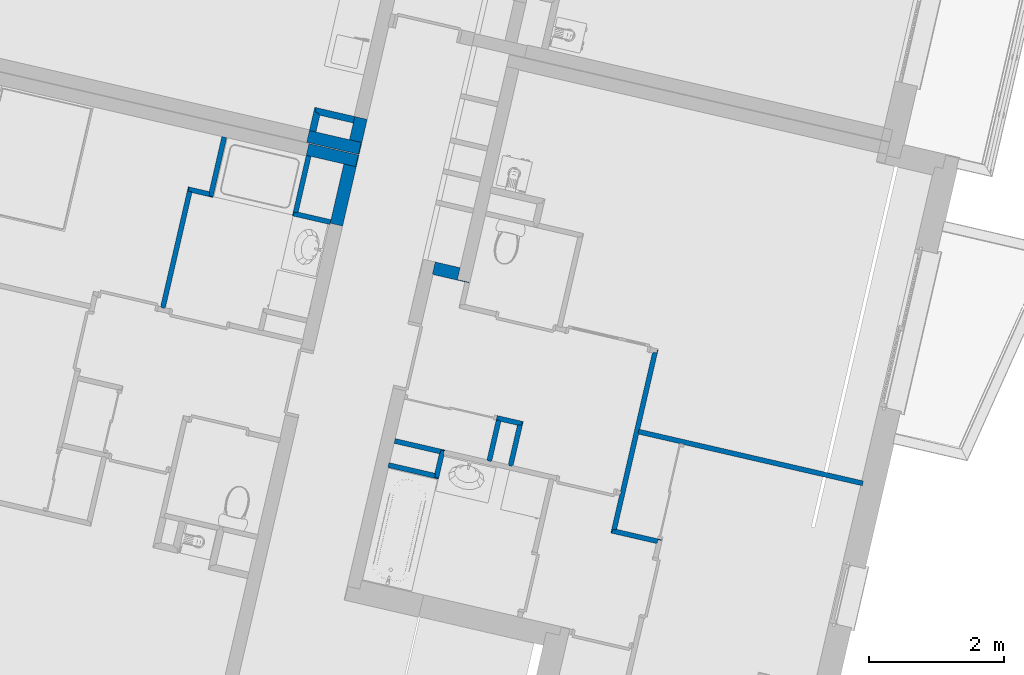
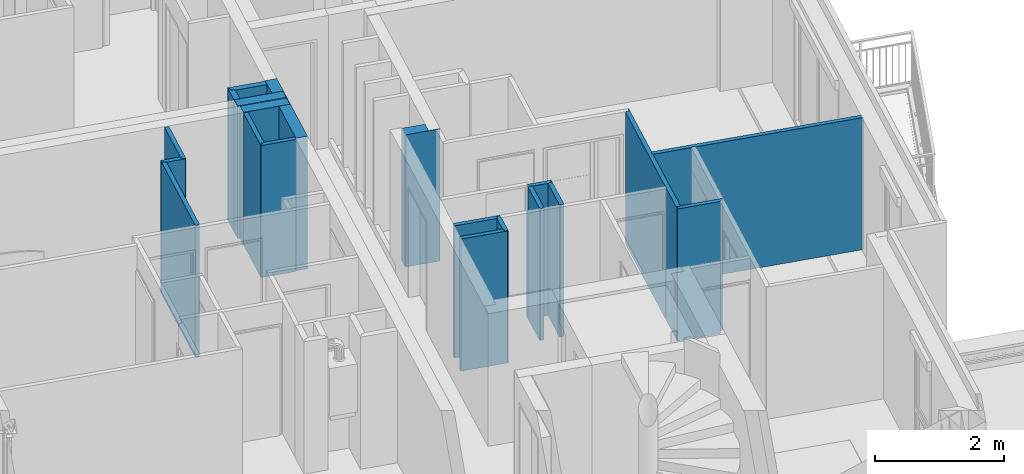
# One storey, part 49 of 90: 21 walls.
"""IFC2X3 building model written with IfcOpenShell, lengths in metres."""

from ifc_helpers import new_model, entity, si_unit, converted_unit, derived_unit, money_unit, direction, frame, origin_with_axes, place, context, subcontext, project, spatial, faceted_brep, material, material_list, type_object, element, save


model = new_model("IFC2X3")

# Units and contexts
model_context = context("Model", 3, precision=1e-05, world=origin_with_axes(), true_north=direction((0.0, 1.0)))
body_context = subcontext(model_context, "Body", "Model", "MODEL_VIEW")
ifc_project = project(units=[si_unit("LENGTHUNIT", "METRE"), si_unit("AREAUNIT", "SQUARE_METRE"), si_unit("VOLUMEUNIT", "CUBIC_METRE"), converted_unit("PLANEANGLEUNIT", "DEGREE", entity("IfcPlaneAngleMeasure", 0.0174532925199), si_unit("PLANEANGLEUNIT", "RADIAN"), dimensions=[0, 0, 0, 0, 0, 0, 0]), si_unit("SOLIDANGLEUNIT", "STERADIAN"), money_unit("EUR"), converted_unit("TIMEUNIT", "Year", entity("IfcTimeMeasure", 31556926.0), si_unit("TIMEUNIT", "SECOND"), dimensions=[0, 0, 1, 0, 0, 0, 0]), si_unit("MASSUNIT", "GRAM", prefix="KILO"), si_unit("THERMODYNAMICTEMPERATUREUNIT", "DEGREE_CELSIUS"), si_unit("LUMINOUSINTENSITYUNIT", "LUMEN"), si_unit("ENERGYUNIT", "JOULE", prefix="MEGA"), derived_unit("THERMALCONDUCTANCEUNIT", [(si_unit("POWERUNIT", "WATT"), 1), (si_unit("LENGTHUNIT", "METRE"), -1), (si_unit("THERMODYNAMICTEMPERATUREUNIT", "KELVIN"), -1)]), derived_unit("SPECIFICHEATCAPACITYUNIT", [(si_unit("ENERGYUNIT", "JOULE"), 1), (si_unit("MASSUNIT", "GRAM", prefix="KILO"), -1), (si_unit("THERMODYNAMICTEMPERATUREUNIT", "KELVIN"), -1)]), derived_unit("MASSDENSITYUNIT", [(si_unit("MASSUNIT", "GRAM", prefix="KILO"), 1), (si_unit("VOLUMEUNIT", "CUBIC_METRE"), -1)])], contexts=[model_context])

# Site, building, storey
site_placement = place(None, origin_with_axes())
site = spatial("IfcSite", under=ifc_project, at=site_placement, Name="Site", CompositionType="ELEMENT")
building_placement = place(site_placement, origin_with_axes())
building = spatial("IfcBuilding", under=site, at=building_placement, Name="Bâtiment", CompositionType="ELEMENT")
storey_placement = place(building_placement, frame((0.0, 0.0, 2.72), z_axis=(0.0, 0.0, 1.0), x_axis=(1.0, 0.0, 0.0)))
storey = spatial("IfcBuildingStorey", under=building, at=storey_placement, Name="R+1", CompositionType="ELEMENT", Elevation=2.72)

# Walls
ifc_material_1 = material(Name="Finition int - Plaque de plâtre")
ifc_material_2 = material(Name="Isolation - Laine de roche")
ifc_material_list_1 = material_list([ifc_material_1, ifc_material_2, ifc_material_1])
wall_type_1 = type_object("IfcWallType", Name="3 - Cloison 72mm Placostil 74", PredefinedType="USERDEFINED")
wall_1_placement = place(storey_placement, frame((-6.39424177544, -3.11506443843, 0.0), z_axis=(0.0, 0.0, 1.0), x_axis=(0.224876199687, 0.974387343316, 0.0)))
element("IfcWall", 1, at=wall_1_placement, inside=storey, type_object=wall_type_1, material=ifc_material_list_1, Name="Cloison Placostil 72/48", ObjectType="PARTITIONING", context=body_context, shape_type="Brep", body=[
    faceted_brep([(0.51300000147, -0.013, 2.5), (0.513000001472, 0.0, 2.5), (-0.061, 0.0, 2.5), (-0.0609999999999, -0.013, 2.5), (0.51300000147, -0.013, 0.0), (0.513000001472, 0.0, 0.0), (-0.061, 0.0, 0.0), (-0.0609999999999, -0.013, 0.0)], [[[0, 1, 2, 3]], [[1, 0, 4, 5]], [[1, 5, 6, 2]], [[7, 3, 2, 6]], [[4, 0, 3, 7]], [[5, 4, 7, 6]]]),
    faceted_brep([(2.6740000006, -0.013, 2.5), (2.6740000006, 0.0, 2.5), (0.561000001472, 0.0, 2.5), (0.56100000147, -0.013, 2.5), (2.6740000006, -0.013, 0.0), (2.6740000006, 0.0, 0.0), (0.561000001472, 0.0, 0.0), (0.56100000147, -0.013, 0.0)], [[[0, 1, 2, 3]], [[1, 0, 4, 5]], [[1, 5, 6, 2]], [[7, 3, 2, 6]], [[4, 0, 3, 7]], [[5, 4, 7, 6]]]),
    faceted_brep([(2.68700000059, -0.061, 2.5), (2.6870000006, -0.013, 2.5), (-0.0129999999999, -0.013, 2.5), (-0.0129999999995, -0.061, 2.5), (2.68700000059, -0.061, 0.0), (2.6870000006, -0.013, 0.0), (-0.0129999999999, -0.013, 0.0), (-0.0129999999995, -0.061, 0.0)], [[[0, 1, 2, 3]], [[1, 0, 4, 5]], [[1, 5, 6, 2]], [[7, 3, 2, 6]], [[4, 0, 3, 7]], [[5, 4, 7, 6]]]),
    faceted_brep([(2.73500000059, -0.074, 2.5), (2.73500000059, -0.061, 2.5), (1.51100000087, -0.061, 2.5), (1.51100000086, -0.074, 2.5), (2.73500000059, -0.074, 0.0), (2.73500000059, -0.061, 0.0), (1.51100000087, -0.061, 0.0), (1.51100000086, -0.074, 0.0)], [[[0, 1, 2, 3]], [[1, 0, 4, 5]], [[1, 5, 6, 2]], [[7, 3, 2, 6]], [[4, 0, 3, 7]], [[5, 4, 7, 6]]]),
    faceted_brep([(1.46300000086, -0.074, 2.5), (1.46300000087, -0.061, 2.5), (0.0, -0.061, 2.5), (0.0, -0.074, 2.5), (1.46300000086, -0.074, 0.0), (1.46300000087, -0.061, 0.0), (0.0, -0.061, 0.0), (0.0, -0.074, 0.0)], [[[0, 1, 2, 3]], [[1, 0, 4, 5]], [[1, 5, 6, 2]], [[7, 3, 2, 6]], [[4, 0, 3, 7]], [[5, 4, 7, 6]]]),
])
wall_2_placement = place(storey_placement, frame((-8.17772002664, -2.11437223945, 0.0), z_axis=(0.0, 0.0, 1.0), x_axis=(0.224876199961, 0.974387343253, 0.0)))
element("IfcWall", 2, at=wall_2_placement, inside=storey, type_object=wall_type_1, material=ifc_material_list_1, Name="Cloison Placostil 72/48", ObjectType="PARTITIONING", context=body_context, shape_type="Brep", body=[
    faceted_brep([(0.599999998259, 0.074, 0.0), (0.599999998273, 0.061, 0.0), (-1.14151355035e-10, 0.061, 0.0), (-1.15734533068e-10, 0.074, 0.0), (0.599999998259, 0.074, 2.5), (0.599999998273, 0.061, 2.5), (-1.14151355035e-10, 0.061, 2.5), (-1.15734533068e-10, 0.074, 2.5)], [[[0, 1, 2, 3]], [[1, 0, 4, 5]], [[1, 5, 6, 2]], [[7, 3, 2, 6]], [[4, 0, 3, 7]], [[5, 4, 7, 6]]]),
    faceted_brep([(0.612999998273, 0.061, 0.0), (0.612999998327, 0.013, 0.0), (-0.0130000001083, 0.013, 0.0), (-0.0130000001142, 0.061, 0.0), (0.612999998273, 0.061, 2.5), (0.612999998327, 0.013, 2.5), (-0.0130000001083, 0.013, 2.5), (-0.0130000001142, 0.061, 2.5)], [[[0, 1, 2, 3]], [[1, 0, 4, 5]], [[1, 5, 6, 2]], [[7, 3, 2, 6]], [[4, 0, 3, 7]], [[5, 4, 7, 6]]]),
    faceted_brep([(0.599999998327, 0.013, 0.0), (0.599999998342, 0.0, 0.0), (-1.06725739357e-10, 0.0, 0.0), (-1.08308029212e-10, 0.013, 0.0), (0.599999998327, 0.013, 2.5), (0.599999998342, 0.0, 2.5), (-1.06725739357e-10, 0.0, 2.5), (-1.08308029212e-10, 0.013, 2.5)], [[[0, 1, 2, 3]], [[1, 0, 4, 5]], [[1, 5, 6, 2]], [[7, 3, 2, 6]], [[4, 0, 3, 7]], [[5, 4, 7, 6]]]),
])
wall_3_placement = place(storey_placement, frame((-5.7180169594, -3.27112852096, 0.0), z_axis=(0.0, 0.0, 1.0), x_axis=(-0.974387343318, 0.224876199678, 0.0)))
element("IfcWall", 3, at=wall_3_placement, inside=storey, type_object=wall_type_1, material=ifc_material_list_1, Name="Cloison Placostil 72/48", ObjectType="PARTITIONING", context=body_context, shape_type="Brep", body=[
    faceted_brep([(0.693999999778, 0.074, 0.0), (0.693999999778, 0.061, 0.0), (0.0, 0.061, 0.0), (0.0, 0.074, 0.0), (0.693999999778, 0.074, 2.5), (0.693999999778, 0.061, 2.5), (0.0, 0.061, 2.5), (0.0, 0.074, 2.5)], [[[0, 1, 2, 3]], [[1, 0, 4, 5]], [[1, 5, 6, 2]], [[7, 3, 2, 6]], [[4, 0, 3, 7]], [[5, 4, 7, 6]]]),
    faceted_brep([(0.680999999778, 0.061, 0.0), (0.680999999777, 0.013, 0.0), (-0.012999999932, 0.013, 0.0), (-0.0129999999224, 0.061, 0.0), (0.680999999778, 0.061, 2.5), (0.680999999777, 0.013, 2.5), (-0.012999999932, 0.013, 2.5), (-0.0129999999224, 0.061, 2.5)], [[[0, 1, 2, 3]], [[1, 0, 4, 5]], [[1, 5, 6, 2]], [[7, 3, 2, 6]], [[4, 0, 3, 7]], [[5, 4, 7, 6]]]),
    faceted_brep([(0.632999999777, 0.013, 0.0), (0.632999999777, 0.0, 0.0), (-0.0609999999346, 0.0, 0.0), (-0.060999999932, 0.013, 0.0), (0.632999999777, 0.013, 2.5), (0.632999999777, 0.0, 2.5), (-0.0609999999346, 0.0, 2.5), (-0.060999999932, 0.013, 2.5)], [[[0, 1, 2, 3]], [[1, 0, 4, 5]], [[1, 5, 6, 2]], [[7, 3, 2, 6]], [[4, 0, 3, 7]], [[5, 4, 7, 6]]]),
])
wall_4_placement = place(storey_placement, frame((-6.0515304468, -1.63009812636, 0.0), z_axis=(0.0, 0.0, 1.0), x_axis=(0.974387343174, -0.224876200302, 0.0)))
element("IfcWall", 4, at=wall_4_placement, inside=storey, type_object=wall_type_1, material=ifc_material_list_1, Name="Cloison Placostil 72/48", ObjectType="PARTITIONING", context=body_context, shape_type="Brep", body=[
    faceted_brep([(0.073999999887, -0.013, 2.5), (3.48316950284, -0.013, 2.5), (3.48316950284, 0.0, 2.5), (0.0739999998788, 0.0, 2.5), (0.073999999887, -0.013, 0.0), (3.48316950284, -0.013, 0.0), (3.48316950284, 0.0, 0.0), (0.0739999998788, 0.0, 0.0)], [[[0, 1, 2, 3]], [[4, 5, 1, 0]], [[2, 1, 5, 6]], [[3, 2, 6, 7]], [[4, 0, 3, 7]], [[7, 6, 5, 4]]]),
    faceted_brep([(0.0609999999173, -0.061, 2.5), (3.48316950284, -0.061, 2.5), (3.48316950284, -0.013, 2.5), (0.060999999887, -0.013, 2.5), (0.0609999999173, -0.061, 0.0), (3.48316950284, -0.061, 0.0), (3.48316950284, -0.013, 0.0), (0.060999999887, -0.013, 0.0)], [[[0, 1, 2, 3]], [[4, 5, 1, 0]], [[2, 1, 5, 6]], [[3, 2, 6, 7]], [[4, 0, 3, 7]], [[7, 6, 5, 4]]]),
    faceted_brep([(0.706999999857, -0.074, 2.5), (0.706999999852, -0.061, 2.5), (0.0739999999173, -0.061, 2.5), (0.0739999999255, -0.074, 2.5), (0.706999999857, -0.074, 0.0), (0.706999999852, -0.061, 0.0), (0.0739999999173, -0.061, 0.0), (0.0739999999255, -0.074, 0.0)], [[[0, 1, 2, 3]], [[1, 0, 4, 5]], [[1, 5, 6, 2]], [[7, 3, 2, 6]], [[4, 0, 3, 7]], [[5, 4, 7, 6]]]),
    faceted_brep([(0.754999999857, -0.074, 2.5), (3.48316950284, -0.074, 2.5), (3.48316950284, -0.061, 2.5), (0.754999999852, -0.061, 2.5), (0.754999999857, -0.074, 0.0), (3.48316950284, -0.074, 0.0), (3.48316950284, -0.061, 0.0), (0.754999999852, -0.061, 0.0)], [[[0, 1, 2, 3]], [[4, 5, 1, 0]], [[2, 1, 5, 6]], [[3, 2, 6, 7]], [[4, 0, 3, 7]], [[7, 6, 5, 4]]]),
])
wall_5_placement = place(storey_placement, frame((-7.71045196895, -1.53049506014, 0.0), z_axis=(0.0, 0.0, 1.0), x_axis=(-0.974387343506, 0.224876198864, 0.0)))
element("IfcWall", 5, at=wall_5_placement, inside=storey, type_object=wall_type_1, material=ifc_material_list_1, Name="Cloison Placostil 72/48", ObjectType="PARTITIONING", context=body_context, shape_type="Brep", body=[
    faceted_brep([(0.385000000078, 0.074, 0.0), (0.397999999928, 0.074, 0.0), (0.397999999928, 0.061, 0.0), (0.385000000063, 0.061, 0.0), (0.385000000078, 0.074, 2.5), (0.397999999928, 0.074, 2.5), (0.397999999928, 0.061, 2.5), (0.385000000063, 0.061, 2.5)], [[[0, 1, 2, 3]], [[4, 5, 1, 0]], [[2, 1, 5, 6]], [[3, 2, 6, 7]], [[4, 0, 3, 7]], [[7, 6, 5, 4]]]),
    faceted_brep([(0.337000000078, 0.074, 0.0), (0.337000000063, 0.061, 0.0), (0.061000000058, 0.061, 0.0), (0.0610000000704, 0.074, 0.0), (0.337000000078, 0.074, 2.5), (0.337000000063, 0.061, 2.5), (0.061000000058, 0.061, 2.5), (0.0610000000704, 0.074, 2.5)], [[[0, 1, 2, 3]], [[1, 0, 4, 5]], [[1, 5, 6, 2]], [[7, 3, 2, 6]], [[4, 0, 3, 7]], [[5, 4, 7, 6]]]),
    faceted_brep([(0.013000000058, 0.061, 0.0), (0.397999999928, 0.061, 0.0), (0.397999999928, 0.013, 0.0), (0.0130000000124, 0.013, 0.0), (0.013000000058, 0.061, 2.5), (0.397999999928, 0.061, 2.5), (0.397999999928, 0.013, 2.5), (0.0130000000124, 0.013, 2.5)], [[[0, 1, 2, 3]], [[4, 5, 1, 0]], [[2, 1, 5, 6]], [[3, 2, 6, 7]], [[4, 0, 3, 7]], [[7, 6, 5, 4]]]),
    faceted_brep([(0.0, 0.013, 0.0), (0.397999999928, 0.013, 0.0), (0.397999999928, 0.0, 0.0), (0.0, 0.0, 0.0), (0.0, 0.013, 2.5), (0.397999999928, 0.013, 2.5), (0.397999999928, 0.0, 2.5), (0.0, 0.0, 2.5)], [[[0, 1, 2, 3]], [[4, 5, 1, 0]], [[2, 1, 5, 6]], [[3, 2, 6, 7]], [[4, 0, 3, 7]], [[7, 6, 5, 4]]]),
])
wall_6_placement = place(storey_placement, frame((-7.86201852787, -2.18723213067, 0.0), z_axis=(0.0, 0.0, 1.0), x_axis=(0.224876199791, 0.974387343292, 0.0)))
element("IfcWall", 6, at=wall_6_placement, inside=storey, type_object=wall_type_1, material=ifc_material_list_1, Name="Cloison Placostil 72/48", ObjectType="PARTITIONING", context=body_context, shape_type="Brep", body=[
    faceted_brep([(0.600000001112, 0.074, 0.0), (0.600000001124, 0.061, 0.0), (2.41132092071e-09, 0.061, 0.0), (2.41201103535e-09, 0.074, 0.0), (0.600000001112, 0.074, 2.5), (0.600000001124, 0.061, 2.5), (2.41132092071e-09, 0.061, 2.5), (2.41201147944e-09, 0.074, 2.5)], [[[0, 1, 2, 3]], [[1, 0, 4, 5]], [[1, 5, 6, 2]], [[7, 3, 2, 6]], [[4, 0, 3, 7]], [[5, 4, 7, 6]]]),
    faceted_brep([(0.613000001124, 0.061, 0.0), (0.61300000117, 0.013, 0.0), (-0.0129999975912, 0.013, 0.0), (-0.0129999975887, 0.061, 0.0), (0.613000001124, 0.061, 2.5), (0.61300000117, 0.013, 2.5), (-0.0129999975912, 0.013, 2.5), (-0.0129999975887, 0.061, 2.5)], [[[0, 1, 2, 3]], [[1, 0, 4, 5]], [[1, 5, 6, 2]], [[7, 3, 2, 6]], [[4, 0, 3, 7]], [[5, 4, 7, 6]]]),
    faceted_brep([(0.66100000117, 0.013, 0.0), (0.661000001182, 0.0, 0.0), (2.40808173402e-09, 0.0, 0.0), (2.40877229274e-09, 0.013, 0.0), (0.66100000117, 0.013, 2.5), (0.661000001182, 0.0, 2.5), (2.40808173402e-09, 0.0, 2.5), (2.40877229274e-09, 0.013, 2.5)], [[[0, 1, 2, 3]], [[1, 0, 4, 5]], [[1, 5, 6, 2]], [[7, 3, 2, 6]], [[4, 0, 3, 7]], [[5, 4, 7, 6]]]),
])
wall_7_placement = place(storey_placement, frame((-12.3216051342, 1.79729698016, 0.0), z_axis=(0.0, 0.0, 1.0), x_axis=(-0.974387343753, 0.224876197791, 0.0)))
element("IfcWall", 7, at=wall_7_placement, inside=storey, type_object=wall_type_1, material=ifc_material_list_1, Name="Cloison Placostil 72/48", ObjectType="PARTITIONING", context=body_context, shape_type="Brep", body=[
    faceted_brep([(0.332020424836, -0.013, 2.5), (0.332020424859, 0.0, 2.5), (0.013, 0.0, 2.5), (0.012999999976, -0.013, 2.5), (0.332020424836, -0.013, 0.0), (0.332020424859, 0.0, 0.0), (0.013, 0.0, 0.0), (0.012999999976, -0.013, 0.0)], [[[0, 1, 2, 3]], [[1, 0, 4, 5]], [[1, 5, 6, 2]], [[7, 3, 2, 6]], [[4, 0, 3, 7]], [[5, 4, 7, 6]]]),
    faceted_brep([(0.380020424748, -0.061, 2.5), (0.380020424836, -0.013, 2.5), (0.060999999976, -0.013, 2.5), (0.0609999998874, -0.061, 2.5), (0.380020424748, -0.061, 0.0), (0.380020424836, -0.013, 0.0), (0.060999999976, -0.013, 0.0), (0.0609999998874, -0.061, 0.0)], [[[0, 1, 2, 3]], [[1, 0, 4, 5]], [[1, 5, 6, 2]], [[7, 3, 2, 6]], [[4, 0, 3, 7]], [[5, 4, 7, 6]]]),
    faceted_brep([(0.393020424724, -0.074, 2.5), (0.393020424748, -0.061, 2.5), (0.0739999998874, -0.061, 2.5), (0.0739999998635, -0.074, 2.5), (0.393020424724, -0.074, 0.0), (0.393020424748, -0.061, 0.0), (0.0739999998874, -0.061, 0.0), (0.0739999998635, -0.074, 0.0)], [[[0, 1, 2, 3]], [[1, 0, 4, 5]], [[1, 5, 6, 2]], [[7, 3, 2, 6]], [[4, 0, 3, 7]], [[5, 4, 7, 6]]]),
])
wall_8_placement = place(storey_placement, frame((-13.0436333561, 0.0874017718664, 0.0), z_axis=(0.0, 0.0, 1.0), x_axis=(0.224876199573, 0.974387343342, 0.0)))
element("IfcWall", 8, at=wall_8_placement, inside=storey, type_object=wall_type_1, material=ifc_material_list_1, Name="Cloison Placostil 72/48", ObjectType="PARTITIONING", context=body_context, shape_type="Brep", body=[
    faceted_brep([(1.88946721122, 0.074, 0.0), (1.88946721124, 0.061, 0.0), (0.0740000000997, 0.061, 0.0), (0.0740000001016, 0.074, 0.0), (1.88946721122, 0.074, 2.5), (1.88946721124, 0.061, 2.5), (0.0740000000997, 0.061, 2.5), (0.0740000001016, 0.074, 2.5)], [[[0, 1, 2, 3]], [[1, 0, 4, 5]], [[1, 5, 6, 2]], [[7, 3, 2, 6]], [[4, 0, 3, 7]], [[5, 4, 7, 6]]]),
    faceted_brep([(1.84146721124, 0.061, 0.0), (1.84146721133, 0.013, 0.0), (0.0610000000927, 0.013, 0.0), (0.0610000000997, 0.061, 0.0), (1.84146721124, 0.061, 2.5), (1.84146721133, 0.013, 2.5), (0.0610000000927, 0.013, 2.5), (0.0610000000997, 0.061, 2.5)], [[[0, 1, 2, 3]], [[1, 0, 4, 5]], [[1, 5, 6, 2]], [[7, 3, 2, 6]], [[4, 0, 3, 7]], [[5, 4, 7, 6]]]),
    faceted_brep([(1.82846721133, 0.013, 0.0), (1.82846721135, 0.0, 0.0), (0.0740000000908, 0.0, 0.0), (0.0740000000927, 0.013, 0.0), (1.82846721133, 0.013, 2.5), (1.82846721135, 0.0, 2.5), (0.0740000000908, 0.0, 2.5), (0.0740000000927, 0.013, 2.5)], [[[0, 1, 2, 3]], [[1, 0, 4, 5]], [[1, 5, 6, 2]], [[7, 3, 2, 6]], [[4, 0, 3, 7]], [[5, 4, 7, 6]]]),
])
wall_9_placement = place(storey_placement, frame((-12.3216051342, 1.79729698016, 0.0), z_axis=(0.0, 0.0, 1.0), x_axis=(0.224876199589, 0.974387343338, 0.0)))
element("IfcWall", 9, at=wall_9_placement, inside=storey, type_object=wall_type_1, material=ifc_material_list_1, Name="Cloison Placostil 72/48", ObjectType="PARTITIONING", context=body_context, shape_type="Brep", body=[
    faceted_brep([(0.0609999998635, 0.074, 0.0), (0.912999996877, 0.074, 0.0), (0.912999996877, 0.061, 0.0), (0.0609999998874, 0.061, 0.0), (0.0609999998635, 0.074, 2.5), (0.912999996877, 0.074, 2.5), (0.912999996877, 0.061, 2.5), (0.0609999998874, 0.061, 2.5)], [[[0, 1, 2, 3]], [[4, 5, 1, 0]], [[2, 1, 5, 6]], [[3, 2, 6, 7]], [[4, 0, 3, 7]], [[7, 6, 5, 4]]]),
    faceted_brep([(0.0129999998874, 0.061, 0.0), (0.912999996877, 0.061, 0.0), (0.912999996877, 0.013, 0.0), (0.012999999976, 0.013, 0.0), (0.0129999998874, 0.061, 2.5), (0.912999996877, 0.061, 2.5), (0.912999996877, 0.013, 2.5), (0.012999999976, 0.013, 2.5)], [[[0, 1, 2, 3]], [[4, 5, 1, 0]], [[2, 1, 5, 6]], [[3, 2, 6, 7]], [[4, 0, 3, 7]], [[7, 6, 5, 4]]]),
    faceted_brep([(0.0, 0.013, 0.0), (0.912999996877, 0.013, 0.0), (0.912999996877, 0.0, 0.0), (0.0, 0.0, 0.0), (0.0, 0.013, 2.5), (0.912999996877, 0.013, 2.5), (0.912999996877, 0.0, 2.5), (0.0, 0.0, 2.5)], [[[0, 1, 2, 3]], [[4, 5, 1, 0]], [[2, 1, 5, 6]], [[3, 2, 6, 7]], [[4, 0, 3, 7]], [[7, 6, 5, 4]]]),
])
wall_type_2 = type_object("IfcWallType", Name="3 - Cloison Gaine Technique 72mm 74", PredefinedType="USERDEFINED")
wall_10_placement = place(storey_placement, frame((-8.97025376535, -2.38667692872, 0.0), z_axis=(0.0, 0.0, 1.0), x_axis=(0.224876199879, 0.974387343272, 0.0)))
element("IfcWall", 10, at=wall_10_placement, inside=storey, type_object=wall_type_2, material=ifc_material_list_1, Name="Cloison Placostil 72/48", ObjectType="PARTITIONING", context=body_context, shape_type="Brep", body=[
    faceted_brep([(0.382552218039, 0.074, 0.0), (0.38255221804, 0.061, 0.0), (0.0610000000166, 0.061, 0.0), (0.0610000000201, 0.074, 0.0), (0.382552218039, 0.074, 2.5), (0.38255221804, 0.061, 2.5), (0.0610000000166, 0.061, 2.5), (0.0610000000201, 0.074, 2.5)], [[[0, 1, 2, 3]], [[1, 0, 4, 5]], [[1, 5, 6, 2]], [[7, 3, 2, 6]], [[4, 0, 3, 7]], [[5, 4, 7, 6]]]),
    faceted_brep([(0.0130000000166, 0.061, 0.0), (0.43055221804, 0.061, 0.0), (0.430552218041, 0.013, 0.0), (0.0130000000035, 0.013, 0.0), (0.0130000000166, 0.061, 2.5), (0.43055221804, 0.061, 2.5), (0.430552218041, 0.013, 2.5), (0.0130000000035, 0.013, 2.5)], [[[0, 1, 2, 3]], [[4, 5, 1, 0]], [[6, 2, 1, 5]], [[3, 2, 6, 7]], [[7, 4, 0, 3]], [[7, 6, 5, 4]]]),
    faceted_brep([(0.0, 0.0, 0.0), (0.382552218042, 0.0, 0.0), (0.382552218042, 0.0, 2.5), (0.0, 0.0, 2.5), (0.0, 0.013, 0.0), (0.382552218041, 0.013, 0.0), (0.382552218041, 0.013, 2.5), (0.0, 0.013, 2.5)], [[[0, 1, 2, 3]], [[4, 5, 1, 0]], [[5, 6, 2, 1]], [[3, 2, 6, 7]], [[3, 7, 4, 0]], [[7, 6, 5, 4]]]),
    faceted_brep([(0.443552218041, 0.013, 2.5), (0.430552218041, 0.013, 2.5), (0.430552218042, 0.0, 2.5), (0.443552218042, 0.0, 2.5), (0.443552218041, 0.013, 0.0), (0.430552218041, 0.013, 0.0), (0.430552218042, 0.0, 0.0), (0.443552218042, 0.0, 0.0)], [[[0, 1, 2, 3]], [[4, 5, 1, 0]], [[5, 6, 2, 1]], [[3, 2, 6, 7]], [[3, 7, 4, 0]], [[7, 6, 5, 4]]]),
])
wall_11_placement = place(storey_placement, frame((-8.87050942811, -1.95448526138, 0.0), z_axis=(0.0, 0.0, 1.0), x_axis=(-0.97438734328, 0.224876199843, 0.0)))
element("IfcWall", 11, at=wall_11_placement, inside=storey, type_object=wall_type_2, material=ifc_material_list_1, Name="Cloison Placostil 72/48", ObjectType="PARTITIONING", context=body_context, shape_type="Brep", body=[
    faceted_brep([(0.0740000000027, 0.074, 0.0), (0.763000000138, 0.074, 0.0), (0.763000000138, 0.061, 0.0), (0.0740000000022, 0.061, 0.0), (0.0740000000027, 0.074, 2.5), (0.763000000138, 0.074, 2.5), (0.763000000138, 0.061, 2.5), (0.0740000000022, 0.061, 2.5)], [[[0, 1, 2, 3]], [[4, 5, 1, 0]], [[2, 1, 5, 6]], [[3, 2, 6, 7]], [[4, 0, 3, 7]], [[7, 6, 5, 4]]]),
    faceted_brep([(0.0610000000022, 0.061, 0.0), (0.763000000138, 0.061, 0.0), (0.763000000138, 0.013, 0.0), (0.0610000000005, 0.013, 0.0), (0.0610000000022, 0.061, 2.5), (0.763000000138, 0.061, 2.5), (0.763000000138, 0.013, 2.5), (0.0610000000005, 0.013, 2.5)], [[[0, 1, 2, 3]], [[4, 5, 1, 0]], [[2, 1, 5, 6]], [[3, 2, 6, 7]], [[4, 0, 3, 7]], [[7, 6, 5, 4]]]),
    faceted_brep([(0.013, 0.0, 0.0), (0.0130000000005, 0.013, 0.0), (0.763000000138, 0.013, 0.0), (0.763000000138, 0.0, 0.0), (0.013, 0.0, 2.5), (0.0130000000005, 0.013, 2.5), (0.763000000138, 0.013, 2.5), (0.763000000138, 0.0, 2.5)], [[[0, 1, 2, 3]], [[4, 5, 1, 0]], [[1, 5, 6, 2]], [[7, 3, 2, 6]], [[4, 0, 3, 7]], [[5, 4, 7, 6]]]),
])
wall_12_placement = place(storey_placement, frame((-9.90858877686, -2.17012114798, 0.0), z_axis=(0.0, 0.0, 1.0), x_axis=(0.974387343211, -0.224876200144, 0.0)))
element("IfcWall", 12, at=wall_12_placement, inside=storey, type_object=wall_type_2, material=ifc_material_list_1, Name="Cloison Placostil 72/48", ObjectType="PARTITIONING", context=body_context, shape_type="Brep", body=[
    faceted_brep([(0.88899999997, 0.074, 0.0), (0.888999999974, 0.061, 0.0), (0.189999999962, 0.061, 0.0), (0.189999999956, 0.074, 0.0), (0.88899999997, 0.074, 2.5), (0.888999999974, 0.061, 2.5), (0.189999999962, 0.061, 2.5), (0.189999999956, 0.074, 2.5)], [[[0, 1, 2, 3]], [[1, 0, 4, 5]], [[1, 5, 6, 2]], [[7, 3, 2, 6]], [[4, 0, 3, 7]], [[5, 4, 7, 6]]]),
    faceted_brep([(0.901999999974, 0.061, 0.0), (0.901999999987, 0.013, 0.0), (0.189999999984, 0.013, 0.0), (0.189999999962, 0.061, 0.0), (0.901999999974, 0.061, 2.5), (0.901999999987, 0.013, 2.5), (0.189999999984, 0.013, 2.5), (0.189999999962, 0.061, 2.5)], [[[0, 1, 2, 3]], [[1, 0, 4, 5]], [[1, 5, 6, 2]], [[7, 3, 2, 6]], [[4, 0, 3, 7]], [[5, 4, 7, 6]]]),
    faceted_brep([(0.949999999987, 0.013, 0.0), (0.94999999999, 0.0, 0.0), (0.18999999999, 0.0, 0.0), (0.189999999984, 0.013, 0.0), (0.949999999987, 0.013, 2.5), (0.94999999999, 0.0, 2.5), (0.18999999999, 0.0, 2.5), (0.189999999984, 0.013, 2.5)], [[[0, 1, 2, 3]], [[1, 0, 4, 5]], [[1, 5, 6, 2]], [[7, 3, 2, 6]], [[4, 0, 3, 7]], [[5, 4, 7, 6]]]),
])
wall_13_placement = place(storey_placement, frame((-10.5676316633, 1.4684473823, 0.0), z_axis=(0.0, 0.0, 1.0), x_axis=(-0.974387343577, 0.224876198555, 0.0)))
element("IfcWall", 13, at=wall_13_placement, inside=storey, type_object=wall_type_2, material=ifc_material_list_1, Name="Cloison Placostil 72/48", ObjectType="PARTITIONING", context=body_context, shape_type="Brep", body=[
    faceted_brep([(0.572999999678, 0.074, 0.0), (0.572999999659, 0.061, 0.0), (0.0, 0.061, 0.0), (0.0, 0.074, 0.0), (0.572999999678, 0.074, 2.5), (0.572999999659, 0.061, 2.5), (0.0, 0.061, 2.5), (0.0, 0.074, 2.5)], [[[0, 1, 2, 3]], [[1, 0, 4, 5]], [[1, 5, 6, 2]], [[7, 3, 2, 6]], [[4, 0, 3, 7]], [[5, 4, 7, 6]]]),
    faceted_brep([(0.559999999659, 0.061, 0.0), (0.55999999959, 0.013, 0.0), (0.0, 0.013, 0.0), (0.0, 0.061, 0.0), (0.559999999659, 0.061, 2.5), (0.55999999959, 0.013, 2.5), (0.0, 0.013, 2.5), (0.0, 0.061, 2.5)], [[[0, 1, 2, 3]], [[1, 0, 4, 5]], [[1, 5, 6, 2]], [[7, 3, 2, 6]], [[4, 0, 3, 7]], [[5, 4, 7, 6]]]),
    faceted_brep([(0.51199999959, 0.013, 0.0), (0.511999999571, 0.0, 0.0), (0.0, 0.0, 0.0), (0.0, 0.013, 0.0), (0.51199999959, 0.013, 2.5), (0.511999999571, 0.0, 2.5), (0.0, 0.0, 2.5), (0.0, 0.013, 2.5)], [[[0, 1, 2, 3]], [[1, 0, 4, 5]], [[1, 5, 6, 2]], [[7, 3, 2, 6]], [[4, 0, 3, 7]], [[5, 4, 7, 6]]]),
])
wall_14_placement = place(storey_placement, frame((-11.1259556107, 1.59730144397, 0.0), z_axis=(0.0, 0.0, 1.0), x_axis=(0.224876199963, 0.974387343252, 0.0)))
element("IfcWall", 14, at=wall_14_placement, inside=storey, type_object=wall_type_2, material=ifc_material_list_1, Name="Cloison Placostil 72/48", ObjectType="PARTITIONING", context=body_context, shape_type="Brep", body=[
    faceted_brep([(-0.0609999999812, -0.013, 2.5), (0.848999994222, -0.013, 2.5), (0.848999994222, 0.0, 2.5), (-0.061, 0.0, 2.5), (-0.0609999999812, -0.013, 0.0), (0.848999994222, -0.013, 0.0), (0.848999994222, 0.0, 0.0), (-0.061, 0.0, 0.0)], [[[0, 1, 2, 3]], [[4, 5, 1, 0]], [[2, 1, 5, 6]], [[3, 2, 6, 7]], [[4, 0, 3, 7]], [[7, 6, 5, 4]]]),
    faceted_brep([(-0.0129999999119, -0.061, 2.5), (0.848999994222, -0.061, 2.5), (0.848999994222, -0.013, 2.5), (-0.0129999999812, -0.013, 2.5), (-0.0129999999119, -0.061, 0.0), (0.848999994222, -0.061, 0.0), (0.848999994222, -0.013, 0.0), (-0.0129999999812, -0.013, 0.0)], [[[0, 1, 2, 3]], [[4, 5, 1, 0]], [[2, 1, 5, 6]], [[3, 2, 6, 7]], [[4, 0, 3, 7]], [[7, 6, 5, 4]]]),
    faceted_brep([(1.06900266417e-10, -0.074, 2.5), (0.848999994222, -0.074, 2.5), (0.848999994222, -0.061, 2.5), (0.0, -0.061, 2.5), (1.06900266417e-10, -0.074, 0.0), (0.848999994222, -0.074, 0.0), (0.848999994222, -0.061, 0.0), (0.0, -0.061, 0.0)], [[[0, 1, 2, 3]], [[4, 5, 1, 0]], [[2, 1, 5, 6]], [[3, 2, 6, 7]], [[4, 0, 3, 7]], [[7, 6, 5, 4]]]),
])
ifc_material_3 = material(Name="Finition int - Enduit plâtre")
ifc_material_4 = material(Name="Béton")
ifc_material_list_2 = material_list([ifc_material_3, ifc_material_4])
wall_type_3 = type_object("IfcWallType", Name="2 - Murs Béton 18 + Enduit 1 Face 190", PredefinedType="USERDEFINED")
wall_15_placement = place(storey_placement, frame((-8.64852667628, 0.754993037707, 0.0), z_axis=(0.0, 0.0, 1.0), x_axis=(-0.974387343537, 0.224876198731, 0.0)))
element("IfcWall", 15, at=wall_15_placement, inside=storey, type_object=wall_type_3, material=ifc_material_list_2, Name="M_Ext-008", ObjectType="SOLIDWALL", context=body_context, shape_type="Brep", body=[
    faceted_brep([(-0.179999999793, 0.18, 0.0), (0.37000000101, 0.18, 0.0), (0.37000000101, 0.18, 2.5), (-0.179999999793, 0.18, 2.5), (-0.179999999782, 0.19, 0.0), (0.37000000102, 0.19, 0.0), (0.37000000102, 0.19, 2.5), (-0.179999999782, 0.19, 2.5)], [[[0, 1, 2, 3]], [[4, 5, 1, 0]], [[2, 1, 5, 6]], [[3, 2, 6, 7]], [[4, 0, 3, 7]], [[6, 5, 4, 7]]]),
    faceted_brep([(0.0, 0.0, 0.0), (0.380000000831, 0.0, 0.0), (0.380000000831, 0.0, 2.5), (0.0, 0.0, 2.5), (2.06908268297e-10, 0.18, 0.0), (0.38000000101, 0.18, 0.0), (0.38000000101, 0.18, 2.5), (2.06908268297e-10, 0.18, 2.5)], [[[0, 1, 2, 3]], [[4, 5, 1, 0]], [[2, 1, 5, 6]], [[3, 2, 6, 7]], [[4, 0, 3, 7]], [[6, 5, 4, 7]]]),
])
wall_16_placement = place(storey_placement, frame((-10.2139014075, 3.00115867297, 0.0), z_axis=(0.0, 0.0, 1.0), x_axis=(-0.22487619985, -0.974387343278, 0.0)))
element("IfcWall", 16, at=wall_16_placement, inside=storey, type_object=wall_type_3, material=ifc_material_list_2, Name="M_Ext-009", ObjectType="SOLIDWALL", context=body_context, shape_type="Brep", body=[
    faceted_brep([(0.0, 0.18, 2.51), (0.0, 0.19, 2.51), (0.0, 0.19, 0.0), (0.0, 0.18, 0.0), (0.534000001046, 0.19, 2.51), (0.534000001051, 0.18, 2.51), (0.534000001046, 0.19, 0.0), (0.534000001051, 0.18, 0.0)], [[[0, 1, 2, 3]], [[4, 1, 0, 5]], [[1, 4, 6, 2]], [[3, 2, 6, 7]], [[5, 0, 3, 7]], [[4, 5, 7, 6]]]),
    faceted_brep([(0.0, 0.0, 2.51), (0.0, 0.18, 2.51), (0.0, 0.18, 0.0), (0.0, 0.0, 0.0), (0.354000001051, 0.18, 2.51), (0.354000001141, 0.0, 2.51), (0.354000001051, 0.18, 0.0), (0.354000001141, 0.0, 0.0)], [[[0, 1, 2, 3]], [[4, 1, 0, 5]], [[1, 4, 6, 2]], [[7, 3, 2, 6]], [[5, 0, 3, 7]], [[4, 5, 7, 6]]]),
])
wall_17_placement = place(storey_placement, frame((-10.1608443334, 2.43061423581, 0.0), z_axis=(0.0, 0.0, 1.0), x_axis=(-0.22487619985, -0.974387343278, 0.0)))
element("IfcWall", 17, at=wall_17_placement, inside=storey, type_object=wall_type_3, material=ifc_material_list_2, Name="M_Ext-009", ObjectType="SOLIDWALL", context=body_context, shape_type="Brep", body=[
    faceted_brep([(0.0, 0.0, 2.51), (0.0, 0.01, 2.51), (0.0, 0.01, 0.0), (0.0, 0.0, 0.0), (1.08299999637, 0.01, 2.51), (1.08299999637, 0.0, 2.51), (1.08299999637, 0.01, 0.0), (1.08299999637, 0.0, 0.0)], [[[0, 1, 2, 3]], [[4, 1, 0, 5]], [[1, 4, 6, 2]], [[2, 6, 7, 3]], [[5, 0, 3, 7]], [[4, 5, 7, 6]]]),
    faceted_brep([(0.179999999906, -0.18, 2.51), (0.18, 0.0, 2.51), (0.18, 0.0, 0.0), (0.179999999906, -0.18, 0.0), (1.08299999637, 0.0, 2.51), (1.08299999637, -0.18, 2.51), (1.08299999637, 0.0, 0.0), (1.08299999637, -0.18, 0.0)], [[[0, 1, 2, 3]], [[4, 1, 0, 5]], [[1, 4, 6, 2]], [[2, 6, 7, 3]], [[5, 0, 3, 7]], [[4, 5, 7, 6]]]),
])
wall_type_4 = type_object("IfcWallType", Name="Béton 180", PredefinedType="USERDEFINED")
wall_18_placement = place(storey_placement, frame((-10.3339852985, 2.48083583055, 0.0), z_axis=(0.0, 0.0, 1.0), x_axis=(-0.974387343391, 0.22487619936, 0.0)))
element("IfcWall", 18, at=wall_18_placement, inside=storey, type_object=wall_type_4, material=ifc_material_4, Name="M_Ext-009", ObjectType="SOLIDWALL", context=body_context, shape_type="Brep", body=[
    faceted_brep([(0.609999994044, -0.18, 0.0), (0.609999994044, -0.18, 2.51), (-0.180000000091, -0.18, 2.51), (-0.180000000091, -0.18, 0.0), (0.609999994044, 0.0, 0.0), (0.609999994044, 0.0, 2.51), (-0.18, 0.0, 2.51), (-0.18, 0.0, 0.0)], [[[0, 1, 2, 3]], [[4, 5, 1, 0]], [[5, 6, 2, 1]], [[3, 2, 6, 7]], [[3, 7, 4, 0]], [[7, 6, 5, 4]]]),
])
wall_19_placement = place(storey_placement, frame((-10.1608443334, 2.43061423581, 0.0), z_axis=(0.0, 0.0, 1.0), x_axis=(-0.974387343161, 0.224876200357, 0.0)))
element("IfcWall", 19, at=wall_19_placement, inside=storey, type_object=wall_type_4, material=ifc_material_4, Name="M_Ext-009", ObjectType="SOLIDWALL", context=body_context, shape_type="Brep", body=[
    faceted_brep([(0.752999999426, 0.0, 0.0), (0.752999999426, 0.0, 2.51), (0.0, 0.0, 2.51), (0.0, 0.0, 0.0), (0.752999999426, 0.18, 0.0), (0.752999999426, 0.18, 2.51), (0.0, 0.18, 2.51), (0.0, 0.18, 0.0)], [[[0, 1, 2, 3]], [[4, 5, 1, 0]], [[5, 6, 2, 1]], [[3, 2, 6, 7]], [[3, 7, 4, 0]], [[7, 6, 5, 4]]]),
])
ifc_material_list_3 = material_list([ifc_material_1, ifc_material_1, ifc_material_2, ifc_material_1, ifc_material_1])
wall_type_5 = type_object("IfcWallType", Name="3 - Cloison Gaine Technique 98mm 100", PredefinedType="USERDEFINED")
wall_20_placement = place(storey_placement, frame((-10.2139014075, 3.00115867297, 0.0), z_axis=(0.0, 0.0, 1.0), x_axis=(-0.974387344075, 0.224876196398, 0.0)))
element("IfcWall", 20, at=wall_20_placement, inside=storey, type_object=wall_type_5, material=ifc_material_list_3, Name="Cloison 98 isolée", ObjectType="PARTITIONING", context=body_context, shape_type="Brep", body=[
    faceted_brep([(0.522999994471, 0.1, 2.5), (3.5431035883e-10, 0.1, 2.5), (3.08251202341e-10, 0.087, 2.5), (0.522999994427, 0.087, 2.5), (0.522999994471, 0.1, 0.0), (3.5431035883e-10, 0.1, 0.0), (3.08251202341e-10, 0.087, 0.0), (0.522999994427, 0.087, 0.0)], [[[0, 1, 2, 3]], [[4, 5, 1, 0]], [[5, 6, 2, 1]], [[3, 2, 6, 7]], [[4, 0, 3, 7]], [[7, 6, 5, 4]]]),
    faceted_brep([(0.535999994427, 0.087, 2.5), (3.08251202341e-10, 0.087, 2.5), (2.62190269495e-10, 0.074, 2.5), (0.535999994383, 0.074, 2.5), (0.535999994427, 0.087, 0.0), (3.08251202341e-10, 0.087, 0.0), (2.62190269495e-10, 0.074, 0.0), (0.535999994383, 0.074, 0.0)], [[[0, 1, 2, 3]], [[4, 5, 1, 0]], [[5, 6, 2, 1]], [[3, 2, 6, 7]], [[4, 0, 3, 7]], [[7, 6, 5, 4]]]),
    faceted_brep([(0.583999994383, 0.074, 2.5), (2.62190269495e-10, 0.074, 2.5), (0.0, 0.026, 2.5), (0.583999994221, 0.026, 2.5), (0.583999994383, 0.074, 0.0), (2.62190269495e-10, 0.074, 0.0), (0.0, 0.026, 0.0), (0.583999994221, 0.026, 0.0)], [[[0, 1, 2, 3]], [[4, 5, 1, 0]], [[5, 6, 2, 1]], [[3, 2, 6, 7]], [[4, 0, 3, 7]], [[7, 6, 5, 4]]]),
    faceted_brep([(0.596999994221, 0.026, 2.5), (0.0, 0.026, 2.5), (0.0, 0.013, 2.5), (0.596999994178, 0.013, 2.5), (0.596999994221, 0.026, 0.0), (0.0, 0.026, 0.0), (0.0, 0.013, 0.0), (0.596999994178, 0.013, 0.0)], [[[0, 1, 2, 3]], [[4, 5, 1, 0]], [[5, 6, 2, 1]], [[3, 2, 6, 7]], [[4, 0, 3, 7]], [[7, 6, 5, 4]]]),
    faceted_brep([(0.609999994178, 0.013, 2.5), (0.0, 0.013, 2.5), (0.0, 0.0, 2.5), (0.609999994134, 0.0, 2.5), (0.609999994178, 0.013, 0.0), (0.0, 0.013, 0.0), (0.0, 0.0, 0.0), (0.609999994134, 0.0, 0.0)], [[[0, 1, 2, 3]], [[4, 5, 1, 0]], [[6, 2, 1, 5]], [[3, 2, 6, 7]], [[4, 0, 3, 7]], [[7, 6, 5, 4]]]),
])
wall_21_placement = place(storey_placement, frame((-10.8082776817, 3.13833315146, 0.0), z_axis=(0.0, 0.0, 1.0), x_axis=(-0.224876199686, -0.974387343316, 0.0)))
element("IfcWall", 21, at=wall_21_placement, inside=storey, type_object=wall_type_5, material=ifc_material_list_3, Name="Cloison 98 isolée", ObjectType="PARTITIONING", context=body_context, shape_type="Brep", body=[
    faceted_brep([(0.0999999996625, 0.1, 0.0), (0.353999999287, 0.1, 0.0), (0.353999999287, 0.087, 0.0), (0.0999999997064, 0.087, 0.0), (0.0999999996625, 0.1, 2.5), (0.353999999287, 0.1, 2.5), (0.353999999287, 0.087, 2.5), (0.0999999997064, 0.087, 2.5)], [[[0, 1, 2, 3]], [[4, 5, 1, 0]], [[2, 1, 5, 6]], [[3, 2, 6, 7]], [[4, 0, 3, 7]], [[7, 6, 5, 4]]]),
    faceted_brep([(0.0869999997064, 0.087, 0.0), (0.353999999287, 0.087, 0.0), (0.353999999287, 0.074, 0.0), (0.0869999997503, 0.074, 0.0), (0.0869999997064, 0.087, 2.5), (0.353999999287, 0.087, 2.5), (0.353999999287, 0.074, 2.5), (0.0869999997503, 0.074, 2.5)], [[[0, 1, 2, 3]], [[4, 5, 1, 0]], [[2, 1, 5, 6]], [[3, 2, 6, 7]], [[4, 0, 3, 7]], [[7, 6, 5, 4]]]),
    faceted_brep([(0.0739999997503, 0.074, 0.0), (0.353999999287, 0.074, 0.0), (0.353999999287, 0.026, 0.0), (0.0739999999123, 0.026, 0.0), (0.0739999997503, 0.074, 2.5), (0.353999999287, 0.074, 2.5), (0.353999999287, 0.026, 2.5), (0.0739999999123, 0.026, 2.5)], [[[0, 1, 2, 3]], [[4, 5, 1, 0]], [[2, 1, 5, 6]], [[3, 2, 6, 7]], [[4, 0, 3, 7]], [[7, 6, 5, 4]]]),
    faceted_brep([(0.0259999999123, 0.026, 0.0), (0.353999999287, 0.026, 0.0), (0.353999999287, 0.013, 0.0), (0.0259999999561, 0.013, 0.0), (0.0259999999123, 0.026, 2.5), (0.353999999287, 0.026, 2.5), (0.353999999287, 0.013, 2.5), (0.0259999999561, 0.013, 2.5)], [[[0, 1, 2, 3]], [[4, 5, 1, 0]], [[2, 1, 5, 6]], [[3, 2, 6, 7]], [[4, 0, 3, 7]], [[7, 6, 5, 4]]]),
    faceted_brep([(0.0129999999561, 0.013, 0.0), (0.353999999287, 0.013, 0.0), (0.353999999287, 0.0, 0.0), (0.013, 0.0, 0.0), (0.0129999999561, 0.013, 2.5), (0.353999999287, 0.013, 2.5), (0.353999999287, 0.0, 2.5), (0.013, 0.0, 2.5)], [[[0, 1, 2, 3]], [[4, 5, 1, 0]], [[2, 1, 5, 6]], [[3, 2, 6, 7]], [[4, 0, 3, 7]], [[7, 6, 5, 4]]]),
])

save(model, "model.ifc")
